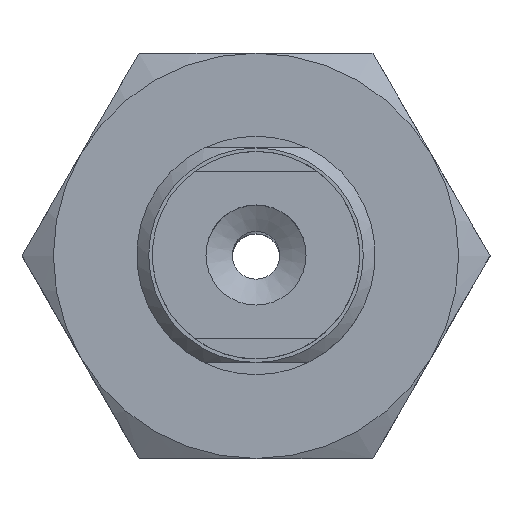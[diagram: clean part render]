
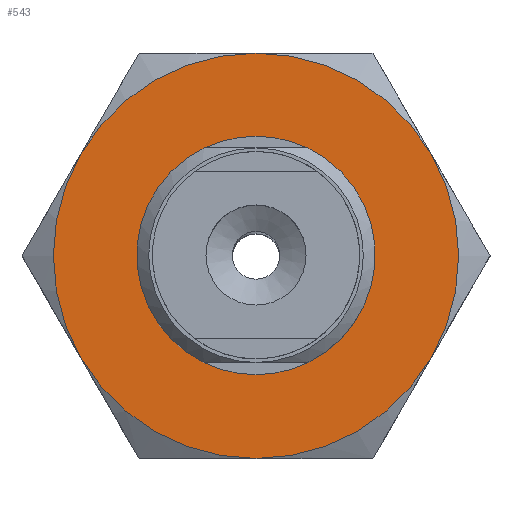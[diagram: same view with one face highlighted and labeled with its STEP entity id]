
A CAD part, top view. The second image highlights one B-rep face of the part: STEP entity #543.
In plain terms, the highlighted planar face has unit normal (0, 0, 1).
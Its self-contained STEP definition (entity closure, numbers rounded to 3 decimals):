
#543=ADVANCED_FACE('',(#722,#723),#724,.T.);
#722=FACE_BOUND('',#1032,.T.);
#723=FACE_OUTER_BOUND('',#1033,.T.);
#724=PLANE('',#1034);
#1032=EDGE_LOOP('',(#1536));
#1033=EDGE_LOOP('',(#1537,#1538,#1539,#1540,#1541,#1542));
#1034=AXIS2_PLACEMENT_3D('',#1543,#1544,#1545);
#1536=ORIENTED_EDGE('',*,*,#2197,.F.);
#1537=ORIENTED_EDGE('',*,*,#2198,.F.);
#1538=ORIENTED_EDGE('',*,*,#2191,.F.);
#1539=ORIENTED_EDGE('',*,*,#2167,.F.);
#1540=ORIENTED_EDGE('',*,*,#2170,.F.);
#1541=ORIENTED_EDGE('',*,*,#2199,.F.);
#1542=ORIENTED_EDGE('',*,*,#2200,.F.);
#1543=CARTESIAN_POINT('',(-9.815,-8.5,4.0));
#1544=DIRECTION('',(0.0,0.0,1.0));
#1545=DIRECTION('',(1.0,0.0,0.0));
#2167=EDGE_CURVE('',#2415,#2416,#2417,.T.);
#2170=EDGE_CURVE('',#2421,#2415,#2422,.T.);
#2191=EDGE_CURVE('',#2416,#2456,#2457,.T.);
#2197=EDGE_CURVE('',#2465,#2465,#2466,.T.);
#2198=EDGE_CURVE('',#2456,#2467,#2468,.T.);
#2199=EDGE_CURVE('',#2469,#2421,#2470,.T.);
#2200=EDGE_CURVE('',#2467,#2469,#2471,.T.);
#2415=VERTEX_POINT('',#2891);
#2416=VERTEX_POINT('',#2892);
#2417=CIRCLE('',#2893,8.5);
#2421=VERTEX_POINT('',#2905);
#2422=CIRCLE('',#2906,8.5);
#2456=VERTEX_POINT('',#2986);
#2457=CIRCLE('',#2987,8.5);
#2465=VERTEX_POINT('',#3012);
#2466=CIRCLE('',#3013,4.5);
#2467=VERTEX_POINT('',#3014);
#2468=CIRCLE('',#3015,8.5);
#2469=VERTEX_POINT('',#3016);
#2470=CIRCLE('',#3017,8.5);
#2471=CIRCLE('',#3018,8.5);
#2891=CARTESIAN_POINT('',(7.361,4.25,4.0));
#2892=CARTESIAN_POINT('',(7.361,-4.25,4.0));
#2893=AXIS2_PLACEMENT_3D('',#3435,#3436,#3437);
#2905=CARTESIAN_POINT('',(0.,8.5,4.0));
#2906=AXIS2_PLACEMENT_3D('',#3438,#3439,#3440);
#2986=CARTESIAN_POINT('',(0.,-8.5,4.0));
#2987=AXIS2_PLACEMENT_3D('',#3464,#3465,#3466);
#3012=CARTESIAN_POINT('',(0.0,-4.5,4.0));
#3013=AXIS2_PLACEMENT_3D('',#3468,#3469,#3470);
#3014=CARTESIAN_POINT('',(-7.361,-4.25,4.0));
#3015=AXIS2_PLACEMENT_3D('',#3471,#3472,#3473);
#3016=CARTESIAN_POINT('',(-7.361,4.25,4.0));
#3017=AXIS2_PLACEMENT_3D('',#3474,#3475,#3476);
#3018=AXIS2_PLACEMENT_3D('',#3477,#3478,#3479);
#3435=CARTESIAN_POINT('',(0.,0.,4.0));
#3436=DIRECTION('',(0.,0.,-1.0));
#3437=DIRECTION('',(0.866,0.5,0.));
#3438=CARTESIAN_POINT('',(0.,0.,4.0));
#3439=DIRECTION('',(0.,0.,-1.0));
#3440=DIRECTION('',(0.866,0.5,0.));
#3464=CARTESIAN_POINT('',(0.,0.,4.0));
#3465=DIRECTION('',(0.,0.,-1.0));
#3466=DIRECTION('',(0.866,0.5,0.));
#3468=CARTESIAN_POINT('',(0.0,0.0,4.0));
#3469=DIRECTION('',(0.0,0.,1.0));
#3470=DIRECTION('',(0.0,-1.0,0.));
#3471=CARTESIAN_POINT('',(0.,0.,4.0));
#3472=DIRECTION('',(0.,0.,-1.0));
#3473=DIRECTION('',(0.866,0.5,0.));
#3474=CARTESIAN_POINT('',(0.,0.,4.0));
#3475=DIRECTION('',(0.,0.,-1.0));
#3476=DIRECTION('',(0.866,0.5,0.));
#3477=CARTESIAN_POINT('',(0.,0.,4.0));
#3478=DIRECTION('',(0.,0.,-1.0));
#3479=DIRECTION('',(0.866,0.5,0.));
